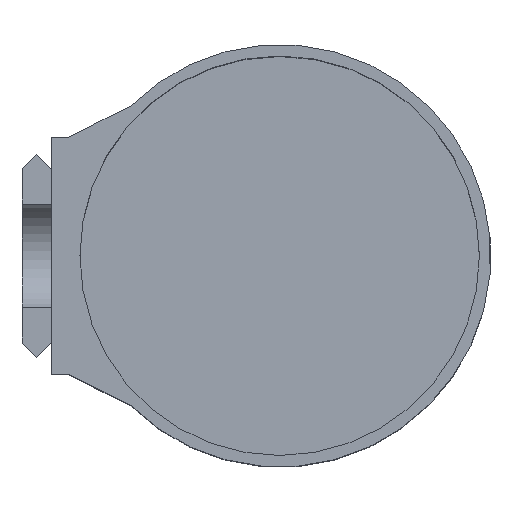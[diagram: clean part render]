
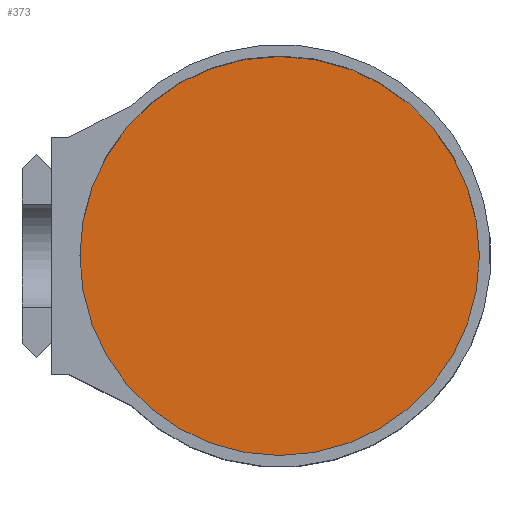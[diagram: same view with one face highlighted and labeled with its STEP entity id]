
A CAD part, top view. The second image highlights one B-rep face of the part: STEP entity #373.
In plain terms, the highlighted planar face has unit normal (0, 0, 1).
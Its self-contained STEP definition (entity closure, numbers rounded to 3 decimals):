
#112=FACE_OUTER_BOUND('',#134,.T.);
#134=EDGE_LOOP('',(#250));
#158=CIRCLE('',#410,35.);
#164=VERTEX_POINT('',#543);
#198=EDGE_CURVE('',#164,#164,#158,.T.);
#250=ORIENTED_EDGE('',*,*,#198,.F.);
#354=PLANE('',#409);
#373=ADVANCED_FACE('',(#112),#354,.F.);
#409=AXIS2_PLACEMENT_3D('',#542,#439,#440);
#410=AXIS2_PLACEMENT_3D('',#544,#441,#442);
#439=DIRECTION('center_axis',(0.,0.,-1.));
#440=DIRECTION('ref_axis',(1.,0.,0.));
#441=DIRECTION('center_axis',(0.,0.,-1.));
#442=DIRECTION('ref_axis',(-1.,0.,0.));
#542=CARTESIAN_POINT('Origin',(136.15,0.,-234.298));
#543=CARTESIAN_POINT('',(171.15,0.,-234.298));
#544=CARTESIAN_POINT('Origin',(136.15,0.,-234.298));
